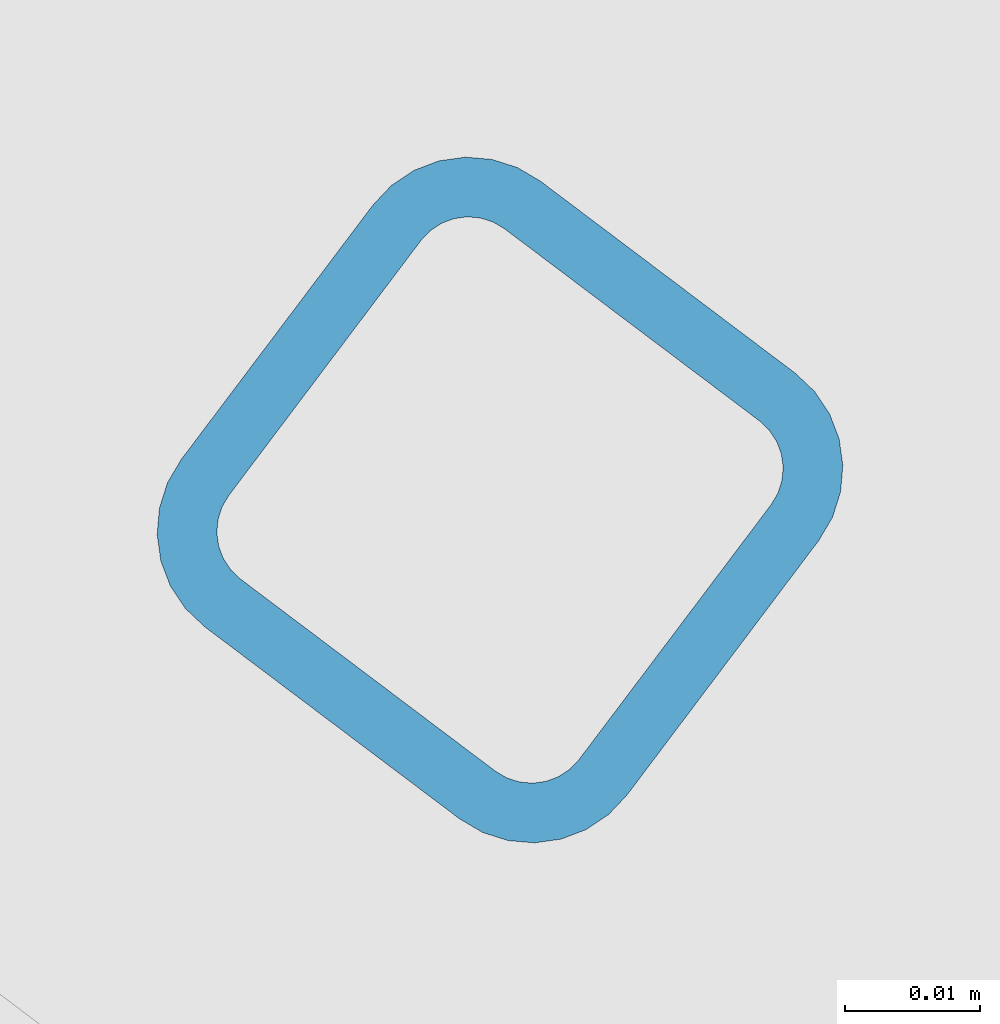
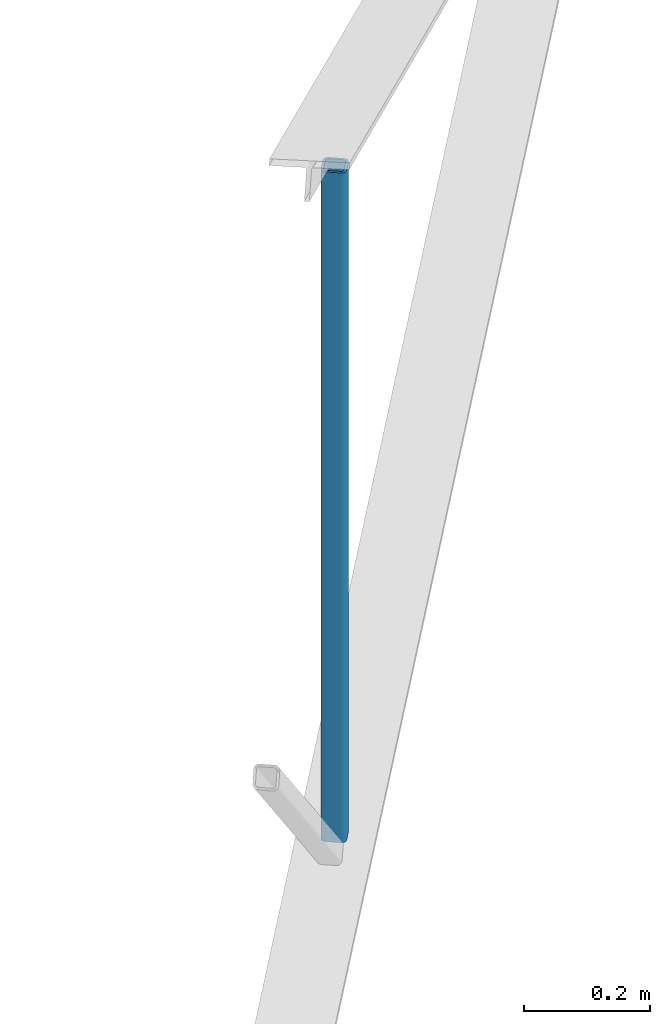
# One storey, part 13 of 15: 1 member, 1 element without a shape of its own.
"""IFC4 building model written with IfcOpenShell, lengths in metres."""

from ifc_helpers import new_model, entity, si_unit, converted_unit, derived_unit, direction, frame, origin, place, context, subcontext, project, spatial, line, arc, indexed_curve, outline, extrude, source, transform, mapped, material, type_object, type_shapes, element, aggregate, save


model = new_model("IFC4")

# Units and contexts
model_context = context("Model", 3, precision=1e-05, world=origin(), true_north=direction((6.123031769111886e-17, 1.0)))
body_context = subcontext(model_context, "Body", "Model", "MODEL_VIEW")
ifc_project = project(units=[si_unit("LENGTHUNIT", "METRE"), si_unit("AREAUNIT", "SQUARE_METRE"), si_unit("VOLUMEUNIT", "CUBIC_METRE"), converted_unit("PLANEANGLEUNIT", "DEGREE", entity("IfcRatioMeasure", 0.017453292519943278), si_unit("PLANEANGLEUNIT", "RADIAN"), dimensions=[0, 0, 0, 0, 0, 0, 0]), si_unit("MASSUNIT", "GRAM", prefix="KILO"), derived_unit("MASSDENSITYUNIT", [(si_unit("MASSUNIT", "GRAM", prefix="KILO"), 1), (si_unit("LENGTHUNIT", "METRE"), -3)]), derived_unit("MOMENTOFINERTIAUNIT", [(si_unit("LENGTHUNIT", "METRE"), 4)]), si_unit("TIMEUNIT", "SECOND"), si_unit("FREQUENCYUNIT", "HERTZ"), si_unit("THERMODYNAMICTEMPERATUREUNIT", "DEGREE_CELSIUS"), derived_unit("THERMALTRANSMITTANCEUNIT", [(si_unit("MASSUNIT", "GRAM", prefix="KILO"), 1), (si_unit("THERMODYNAMICTEMPERATUREUNIT", "KELVIN"), -1), (si_unit("TIMEUNIT", "SECOND"), -3)]), derived_unit("VOLUMETRICFLOWRATEUNIT", [(si_unit("LENGTHUNIT", "METRE"), 3), (si_unit("TIMEUNIT", "SECOND"), -1)]), derived_unit("MASSFLOWRATEUNIT", [(si_unit("MASSUNIT", "GRAM", prefix="KILO"), 1), (si_unit("TIMEUNIT", "SECOND"), -1)]), derived_unit("ROTATIONALFREQUENCYUNIT", [(si_unit("TIMEUNIT", "SECOND"), -1)]), si_unit("ELECTRICCURRENTUNIT", "AMPERE"), si_unit("ELECTRICVOLTAGEUNIT", "VOLT"), si_unit("POWERUNIT", "WATT"), si_unit("FORCEUNIT", "NEWTON", prefix="KILO"), si_unit("ILLUMINANCEUNIT", "LUX"), si_unit("LUMINOUSFLUXUNIT", "LUMEN"), si_unit("LUMINOUSINTENSITYUNIT", "CANDELA"), derived_unit("USERDEFINED", [(si_unit("MASSUNIT", "GRAM", prefix="KILO"), -1), (si_unit("LENGTHUNIT", "METRE"), -2), (si_unit("TIMEUNIT", "SECOND"), 3), (si_unit("LUMINOUSFLUXUNIT", "LUMEN"), 1)]), derived_unit("SOUNDPOWERUNIT", [(si_unit("MASSUNIT", "GRAM", prefix="KILO"), 1), (si_unit("LENGTHUNIT", "METRE"), 2), (si_unit("TIMEUNIT", "SECOND"), -3)]), derived_unit("SOUNDPRESSUREUNIT", [(si_unit("MASSUNIT", "GRAM", prefix="KILO"), 1), (si_unit("LENGTHUNIT", "METRE"), -1), (si_unit("TIMEUNIT", "SECOND"), -2)]), derived_unit("LINEARVELOCITYUNIT", [(si_unit("LENGTHUNIT", "METRE"), 1), (si_unit("TIMEUNIT", "SECOND"), -1)]), si_unit("PRESSUREUNIT", "PASCAL"), derived_unit("USERDEFINED", [(si_unit("LENGTHUNIT", "METRE"), -2), (si_unit("MASSUNIT", "GRAM", prefix="KILO"), 1), (si_unit("TIMEUNIT", "SECOND"), -2)]), derived_unit("LINEARFORCEUNIT", [(si_unit("MASSUNIT", "GRAM", prefix="KILO"), 1), (si_unit("LENGTHUNIT", "METRE"), 1), (si_unit("TIMEUNIT", "SECOND"), -2), (si_unit("LENGTHUNIT", "METRE"), -1)]), derived_unit("PLANARFORCEUNIT", [(si_unit("MASSUNIT", "GRAM", prefix="KILO"), 1), (si_unit("LENGTHUNIT", "METRE"), 1), (si_unit("TIMEUNIT", "SECOND"), -2), (si_unit("LENGTHUNIT", "METRE"), -2)])], contexts=[model_context])

# Site, building, storey
site_placement = place(None, origin())
site = spatial("IfcSite", under=ifc_project, at=site_placement, Name="Superficie", CompositionType="ELEMENT")
building_placement = place(site_placement, origin())
building = spatial("IfcBuilding", under=site, at=building_placement, CompositionType="ELEMENT")
storey_placement = place(building_placement, frame((0.0, 0.0, 7.25)))
storey = spatial("IfcBuildingStorey", under=building, at=storey_placement, Name="Nivel 2", CompositionType="ELEMENT", Elevation=7.25)

# Assembly, member
assembly_placement = place(storey_placement, origin())
assembly = element("IfcElementAssembly", 1, at=assembly_placement, inside=storey, Name="Cercha esquina:Cercha esquina", ObjectType="Cercha esquina:Cercha esquina", AssemblyPlace="NOTDEFINED", PredefinedType="TRUSS")
ifc_material = material(Name="Metal - Acero - 345 MPa", Category="Metal")
member_type = type_object("IfcMemberType", Name="HSS-Sección estructural hueca:HSS41.3X41.3X4.8", PredefinedType="BRACE", material=ifc_material)
shared_shape = source(origin(), body_context, "Body", "SweptSolid", [
    extrude(outline(indexed_curve([(-0.011809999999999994, -0.020650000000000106), (0.011809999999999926, -0.020650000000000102), (0.01806082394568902, -0.01806082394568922), (0.020649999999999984, -0.011810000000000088), (0.020649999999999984, 0.011810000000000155), (0.018060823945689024, 0.018060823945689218), (0.011809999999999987, 0.0206500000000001), (-0.011809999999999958, 0.0206500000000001), (-0.01806082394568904, 0.018060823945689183), (-0.020649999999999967, 0.011810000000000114), (-0.020649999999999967, -0.01181000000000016), (-0.018060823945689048, -0.018060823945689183)], segments=[line(1, 2), arc(2, 3, 4), line(4, 5), arc(5, 6, 7), line(7, 8), arc(8, 9, 10), line(10, 11), arc(11, 12, 1)], self_intersect=False), holes=[indexed_curve([(-0.01623000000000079, 0.01180999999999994), (-0.014935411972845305, 0.014935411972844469), (-0.011810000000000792, 0.016229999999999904), (0.01180999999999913, 0.016229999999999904), (0.01493541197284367, 0.014935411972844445), (0.01622999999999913, 0.01180999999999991), (0.01622999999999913, -0.011809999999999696), (0.014935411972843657, -0.014935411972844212), (0.01180999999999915, -0.01622999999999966), (-0.011810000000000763, -0.01622999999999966), (-0.014935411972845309, -0.01493541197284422), (-0.01623000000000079, -0.011809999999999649)], segments=[arc(1, 2, 3), line(3, 4), arc(4, 5, 6), line(6, 7), arc(7, 8, 9), line(9, 10), arc(10, 11, 12), line(12, 1)], self_intersect=False)]), frame((-0.6555, 0.0, 0.0), z_axis=(1.0, 0.0, 0.0), x_axis=(0.0, 0.0, -1.0)), (0.0, 0.0, 1.0), 1.2990000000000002),
])
type_shapes(member_type, [shared_shape])
member_placement = place(assembly_placement, frame((18.523648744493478, 3.3521500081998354, 0.8347493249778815), z_axis=(-0.6018150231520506, -0.798635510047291, 0.0), x_axis=(0.0, 0.0, 1.0)))
member = element("IfcMember", 2, at=member_placement, type_object=member_type, material=ifc_material, Name="HSS-Sección estructural hueca:HSS41.3X41.3X4.8", ObjectType="HSS-Sección estructural hueca:HSS41.3X41.3X4.8", PredefinedType="BRACE", context=body_context, shape_type="MappedRepresentation", body=[
    mapped(shared_shape, transform((0.0, 0.0, 0.0), scale=1.0)),
])
aggregate(assembly, [member])

save(model, "model.ifc")
